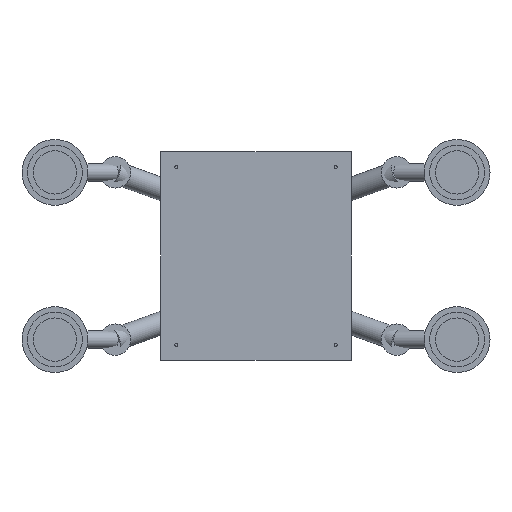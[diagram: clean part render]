
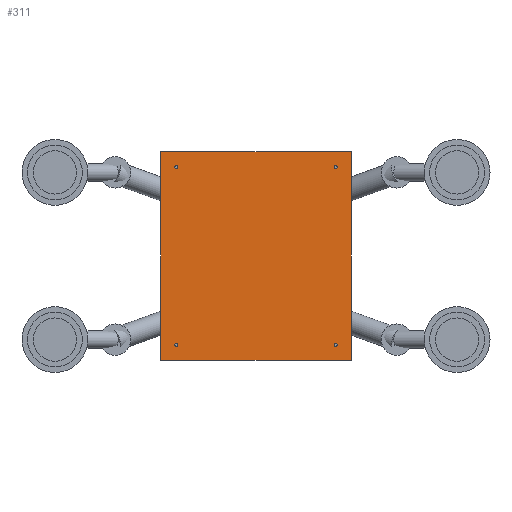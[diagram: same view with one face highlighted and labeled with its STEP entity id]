
A CAD part, front view. The second image highlights one B-rep face of the part: STEP entity #311.
In plain terms, the highlighted planar face has unit normal (0, -1, 0).
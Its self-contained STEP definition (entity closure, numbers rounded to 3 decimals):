
#195 = EDGE_CURVE('',#196,#198,#200,.T.);
#196 = VERTEX_POINT('',#197);
#197 = CARTESIAN_POINT('',(-365.,235.,-400.));
#198 = VERTEX_POINT('',#199);
#199 = CARTESIAN_POINT('',(-365.,235.,400.));
#200 = SURFACE_CURVE('',#201,(#205,#217),.PCURVE_S1.);
#201 = LINE('',#202,#203);
#202 = CARTESIAN_POINT('',(-365.,235.,-400.));
#203 = VECTOR('',#204,1.);
#204 = DIRECTION('',(0.,0.,1.));
#205 = PCURVE('',#206,#211);
#206 = PLANE('',#207);
#207 = AXIS2_PLACEMENT_3D('',#208,#209,#210);
#208 = CARTESIAN_POINT('',(-365.,235.,-400.));
#209 = DIRECTION('',(1.,0.,0.));
#210 = DIRECTION('',(0.,0.,1.));
#211 = DEFINITIONAL_REPRESENTATION('',(#212),#216);
#212 = LINE('',#213,#214);
#213 = CARTESIAN_POINT('',(0.,0.));
#214 = VECTOR('',#215,1.);
#215 = DIRECTION('',(1.,0.));
#216 = ( GEOMETRIC_REPRESENTATION_CONTEXT(2) 
PARAMETRIC_REPRESENTATION_CONTEXT() REPRESENTATION_CONTEXT('2D SPACE',''
  ) );
#217 = PCURVE('',#218,#223);
#218 = PLANE('',#219);
#219 = AXIS2_PLACEMENT_3D('',#220,#221,#222);
#220 = CARTESIAN_POINT('',(-365.,235.,-400.));
#221 = DIRECTION('',(0.,1.,0.));
#222 = DIRECTION('',(0.,0.,1.));
#223 = DEFINITIONAL_REPRESENTATION('',(#224),#228);
#224 = LINE('',#225,#226);
#225 = CARTESIAN_POINT('',(0.,0.));
#226 = VECTOR('',#227,1.);
#227 = DIRECTION('',(1.,0.));
#228 = ( GEOMETRIC_REPRESENTATION_CONTEXT(2) 
PARAMETRIC_REPRESENTATION_CONTEXT() REPRESENTATION_CONTEXT('2D SPACE',''
  ) );
#246 = PLANE('',#247);
#247 = AXIS2_PLACEMENT_3D('',#248,#249,#250);
#248 = CARTESIAN_POINT('',(-365.,235.,-400.));
#249 = DIRECTION('',(0.,0.,1.));
#250 = DIRECTION('',(1.,0.,0.));
#300 = PLANE('',#301);
#301 = AXIS2_PLACEMENT_3D('',#302,#303,#304);
#302 = CARTESIAN_POINT('',(-365.,235.,400.));
#303 = DIRECTION('',(0.,0.,1.));
#304 = DIRECTION('',(1.,0.,0.));
#311 = ADVANCED_FACE('',(#312,#387,#418,#449,#480),#218,.F.);
#312 = FACE_BOUND('',#313,.F.);
#313 = EDGE_LOOP('',(#314,#337,#338,#361));
#314 = ORIENTED_EDGE('',*,*,#315,.F.);
#315 = EDGE_CURVE('',#196,#316,#318,.T.);
#316 = VERTEX_POINT('',#317);
#317 = CARTESIAN_POINT('',(365.,235.,-400.));
#318 = SURFACE_CURVE('',#319,(#323,#330),.PCURVE_S1.);
#319 = LINE('',#320,#321);
#320 = CARTESIAN_POINT('',(-365.,235.,-400.));
#321 = VECTOR('',#322,1.);
#322 = DIRECTION('',(1.,0.,0.));
#323 = PCURVE('',#218,#324);
#324 = DEFINITIONAL_REPRESENTATION('',(#325),#329);
#325 = LINE('',#326,#327);
#326 = CARTESIAN_POINT('',(0.,0.));
#327 = VECTOR('',#328,1.);
#328 = DIRECTION('',(0.,1.));
#329 = ( GEOMETRIC_REPRESENTATION_CONTEXT(2) 
PARAMETRIC_REPRESENTATION_CONTEXT() REPRESENTATION_CONTEXT('2D SPACE',''
  ) );
#330 = PCURVE('',#246,#331);
#331 = DEFINITIONAL_REPRESENTATION('',(#332),#336);
#332 = LINE('',#333,#334);
#333 = CARTESIAN_POINT('',(0.,0.));
#334 = VECTOR('',#335,1.);
#335 = DIRECTION('',(1.,0.));
#336 = ( GEOMETRIC_REPRESENTATION_CONTEXT(2) 
PARAMETRIC_REPRESENTATION_CONTEXT() REPRESENTATION_CONTEXT('2D SPACE',''
  ) );
#337 = ORIENTED_EDGE('',*,*,#195,.T.);
#338 = ORIENTED_EDGE('',*,*,#339,.T.);
#339 = EDGE_CURVE('',#198,#340,#342,.T.);
#340 = VERTEX_POINT('',#341);
#341 = CARTESIAN_POINT('',(365.,235.,400.));
#342 = SURFACE_CURVE('',#343,(#347,#354),.PCURVE_S1.);
#343 = LINE('',#344,#345);
#344 = CARTESIAN_POINT('',(-365.,235.,400.));
#345 = VECTOR('',#346,1.);
#346 = DIRECTION('',(1.,0.,0.));
#347 = PCURVE('',#218,#348);
#348 = DEFINITIONAL_REPRESENTATION('',(#349),#353);
#349 = LINE('',#350,#351);
#350 = CARTESIAN_POINT('',(800.,0.));
#351 = VECTOR('',#352,1.);
#352 = DIRECTION('',(0.,1.));
#353 = ( GEOMETRIC_REPRESENTATION_CONTEXT(2) 
PARAMETRIC_REPRESENTATION_CONTEXT() REPRESENTATION_CONTEXT('2D SPACE',''
  ) );
#354 = PCURVE('',#300,#355);
#355 = DEFINITIONAL_REPRESENTATION('',(#356),#360);
#356 = LINE('',#357,#358);
#357 = CARTESIAN_POINT('',(0.,0.));
#358 = VECTOR('',#359,1.);
#359 = DIRECTION('',(1.,0.));
#360 = ( GEOMETRIC_REPRESENTATION_CONTEXT(2) 
PARAMETRIC_REPRESENTATION_CONTEXT() REPRESENTATION_CONTEXT('2D SPACE',''
  ) );
#361 = ORIENTED_EDGE('',*,*,#362,.F.);
#362 = EDGE_CURVE('',#316,#340,#363,.T.);
#363 = SURFACE_CURVE('',#364,(#368,#375),.PCURVE_S1.);
#364 = LINE('',#365,#366);
#365 = CARTESIAN_POINT('',(365.,235.,-400.));
#366 = VECTOR('',#367,1.);
#367 = DIRECTION('',(0.,0.,1.));
#368 = PCURVE('',#218,#369);
#369 = DEFINITIONAL_REPRESENTATION('',(#370),#374);
#370 = LINE('',#371,#372);
#371 = CARTESIAN_POINT('',(0.,730.));
#372 = VECTOR('',#373,1.);
#373 = DIRECTION('',(1.,0.));
#374 = ( GEOMETRIC_REPRESENTATION_CONTEXT(2) 
PARAMETRIC_REPRESENTATION_CONTEXT() REPRESENTATION_CONTEXT('2D SPACE',''
  ) );
#375 = PCURVE('',#376,#381);
#376 = PLANE('',#377);
#377 = AXIS2_PLACEMENT_3D('',#378,#379,#380);
#378 = CARTESIAN_POINT('',(365.,235.,-400.));
#379 = DIRECTION('',(1.,0.,0.));
#380 = DIRECTION('',(0.,0.,1.));
#381 = DEFINITIONAL_REPRESENTATION('',(#382),#386);
#382 = LINE('',#383,#384);
#383 = CARTESIAN_POINT('',(0.,0.));
#384 = VECTOR('',#385,1.);
#385 = DIRECTION('',(1.,0.));
#386 = ( GEOMETRIC_REPRESENTATION_CONTEXT(2) 
PARAMETRIC_REPRESENTATION_CONTEXT() REPRESENTATION_CONTEXT('2D SPACE',''
  ) );
#387 = FACE_BOUND('',#388,.F.);
#388 = EDGE_LOOP('',(#389));
#389 = ORIENTED_EDGE('',*,*,#390,.F.);
#390 = EDGE_CURVE('',#391,#391,#393,.T.);
#391 = VERTEX_POINT('',#392);
#392 = CARTESIAN_POINT('',(-305.,235.,-334.));
#393 = SURFACE_CURVE('',#394,(#399,#406),.PCURVE_S1.);
#394 = CIRCLE('',#395,6.);
#395 = AXIS2_PLACEMENT_3D('',#396,#397,#398);
#396 = CARTESIAN_POINT('',(-305.,235.,-340.));
#397 = DIRECTION('',(0.,1.,0.));
#398 = DIRECTION('',(0.,-0.,1.));
#399 = PCURVE('',#218,#400);
#400 = DEFINITIONAL_REPRESENTATION('',(#401),#405);
#401 = CIRCLE('',#402,6.);
#402 = AXIS2_PLACEMENT_2D('',#403,#404);
#403 = CARTESIAN_POINT('',(60.,60.));
#404 = DIRECTION('',(1.,0.));
#405 = ( GEOMETRIC_REPRESENTATION_CONTEXT(2) 
PARAMETRIC_REPRESENTATION_CONTEXT() REPRESENTATION_CONTEXT('2D SPACE',''
  ) );
#406 = PCURVE('',#407,#412);
#407 = CYLINDRICAL_SURFACE('',#408,6.);
#408 = AXIS2_PLACEMENT_3D('',#409,#410,#411);
#409 = CARTESIAN_POINT('',(-305.,234.,-340.));
#410 = DIRECTION('',(0.,1.,0.));
#411 = DIRECTION('',(0.,-0.,1.));
#412 = DEFINITIONAL_REPRESENTATION('',(#413),#417);
#413 = LINE('',#414,#415);
#414 = CARTESIAN_POINT('',(0.,1.));
#415 = VECTOR('',#416,1.);
#416 = DIRECTION('',(1.,0.));
#417 = ( GEOMETRIC_REPRESENTATION_CONTEXT(2) 
PARAMETRIC_REPRESENTATION_CONTEXT() REPRESENTATION_CONTEXT('2D SPACE',''
  ) );
#418 = FACE_BOUND('',#419,.F.);
#419 = EDGE_LOOP('',(#420));
#420 = ORIENTED_EDGE('',*,*,#421,.F.);
#421 = EDGE_CURVE('',#422,#422,#424,.T.);
#422 = VERTEX_POINT('',#423);
#423 = CARTESIAN_POINT('',(-305.,235.,346.));
#424 = SURFACE_CURVE('',#425,(#430,#437),.PCURVE_S1.);
#425 = CIRCLE('',#426,6.);
#426 = AXIS2_PLACEMENT_3D('',#427,#428,#429);
#427 = CARTESIAN_POINT('',(-305.,235.,340.));
#428 = DIRECTION('',(0.,1.,0.));
#429 = DIRECTION('',(0.,-0.,1.));
#430 = PCURVE('',#218,#431);
#431 = DEFINITIONAL_REPRESENTATION('',(#432),#436);
#432 = CIRCLE('',#433,6.);
#433 = AXIS2_PLACEMENT_2D('',#434,#435);
#434 = CARTESIAN_POINT('',(740.,60.));
#435 = DIRECTION('',(1.,0.));
#436 = ( GEOMETRIC_REPRESENTATION_CONTEXT(2) 
PARAMETRIC_REPRESENTATION_CONTEXT() REPRESENTATION_CONTEXT('2D SPACE',''
  ) );
#437 = PCURVE('',#438,#443);
#438 = CYLINDRICAL_SURFACE('',#439,6.);
#439 = AXIS2_PLACEMENT_3D('',#440,#441,#442);
#440 = CARTESIAN_POINT('',(-305.,234.,340.));
#441 = DIRECTION('',(0.,1.,0.));
#442 = DIRECTION('',(0.,-0.,1.));
#443 = DEFINITIONAL_REPRESENTATION('',(#444),#448);
#444 = LINE('',#445,#446);
#445 = CARTESIAN_POINT('',(0.,1.));
#446 = VECTOR('',#447,1.);
#447 = DIRECTION('',(1.,0.));
#448 = ( GEOMETRIC_REPRESENTATION_CONTEXT(2) 
PARAMETRIC_REPRESENTATION_CONTEXT() REPRESENTATION_CONTEXT('2D SPACE',''
  ) );
#449 = FACE_BOUND('',#450,.F.);
#450 = EDGE_LOOP('',(#451));
#451 = ORIENTED_EDGE('',*,*,#452,.F.);
#452 = EDGE_CURVE('',#453,#453,#455,.T.);
#453 = VERTEX_POINT('',#454);
#454 = CARTESIAN_POINT('',(305.,235.,-334.));
#455 = SURFACE_CURVE('',#456,(#461,#468),.PCURVE_S1.);
#456 = CIRCLE('',#457,6.);
#457 = AXIS2_PLACEMENT_3D('',#458,#459,#460);
#458 = CARTESIAN_POINT('',(305.,235.,-340.));
#459 = DIRECTION('',(0.,1.,0.));
#460 = DIRECTION('',(0.,-0.,1.));
#461 = PCURVE('',#218,#462);
#462 = DEFINITIONAL_REPRESENTATION('',(#463),#467);
#463 = CIRCLE('',#464,6.);
#464 = AXIS2_PLACEMENT_2D('',#465,#466);
#465 = CARTESIAN_POINT('',(60.,670.));
#466 = DIRECTION('',(1.,0.));
#467 = ( GEOMETRIC_REPRESENTATION_CONTEXT(2) 
PARAMETRIC_REPRESENTATION_CONTEXT() REPRESENTATION_CONTEXT('2D SPACE',''
  ) );
#468 = PCURVE('',#469,#474);
#469 = CYLINDRICAL_SURFACE('',#470,6.);
#470 = AXIS2_PLACEMENT_3D('',#471,#472,#473);
#471 = CARTESIAN_POINT('',(305.,234.,-340.));
#472 = DIRECTION('',(0.,1.,0.));
#473 = DIRECTION('',(0.,-0.,1.));
#474 = DEFINITIONAL_REPRESENTATION('',(#475),#479);
#475 = LINE('',#476,#477);
#476 = CARTESIAN_POINT('',(0.,1.));
#477 = VECTOR('',#478,1.);
#478 = DIRECTION('',(1.,0.));
#479 = ( GEOMETRIC_REPRESENTATION_CONTEXT(2) 
PARAMETRIC_REPRESENTATION_CONTEXT() REPRESENTATION_CONTEXT('2D SPACE',''
  ) );
#480 = FACE_BOUND('',#481,.F.);
#481 = EDGE_LOOP('',(#482));
#482 = ORIENTED_EDGE('',*,*,#483,.F.);
#483 = EDGE_CURVE('',#484,#484,#486,.T.);
#484 = VERTEX_POINT('',#485);
#485 = CARTESIAN_POINT('',(305.,235.,346.));
#486 = SURFACE_CURVE('',#487,(#492,#499),.PCURVE_S1.);
#487 = CIRCLE('',#488,6.);
#488 = AXIS2_PLACEMENT_3D('',#489,#490,#491);
#489 = CARTESIAN_POINT('',(305.,235.,340.));
#490 = DIRECTION('',(0.,1.,0.));
#491 = DIRECTION('',(0.,-0.,1.));
#492 = PCURVE('',#218,#493);
#493 = DEFINITIONAL_REPRESENTATION('',(#494),#498);
#494 = CIRCLE('',#495,6.);
#495 = AXIS2_PLACEMENT_2D('',#496,#497);
#496 = CARTESIAN_POINT('',(740.,670.));
#497 = DIRECTION('',(1.,0.));
#498 = ( GEOMETRIC_REPRESENTATION_CONTEXT(2) 
PARAMETRIC_REPRESENTATION_CONTEXT() REPRESENTATION_CONTEXT('2D SPACE',''
  ) );
#499 = PCURVE('',#500,#505);
#500 = CYLINDRICAL_SURFACE('',#501,6.);
#501 = AXIS2_PLACEMENT_3D('',#502,#503,#504);
#502 = CARTESIAN_POINT('',(305.,234.,340.));
#503 = DIRECTION('',(0.,1.,0.));
#504 = DIRECTION('',(0.,-0.,1.));
#505 = DEFINITIONAL_REPRESENTATION('',(#506),#510);
#506 = LINE('',#507,#508);
#507 = CARTESIAN_POINT('',(0.,1.));
#508 = VECTOR('',#509,1.);
#509 = DIRECTION('',(1.,0.));
#510 = ( GEOMETRIC_REPRESENTATION_CONTEXT(2) 
PARAMETRIC_REPRESENTATION_CONTEXT() REPRESENTATION_CONTEXT('2D SPACE',''
  ) );
